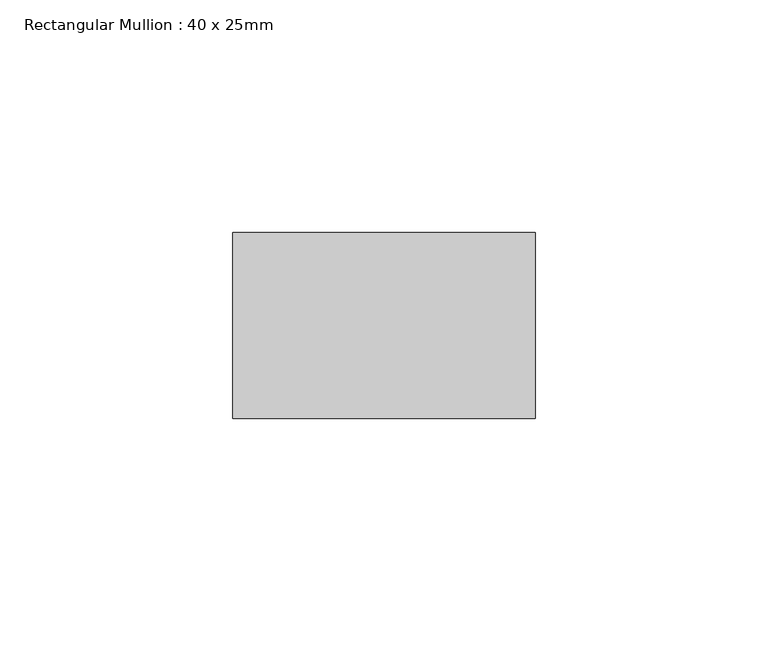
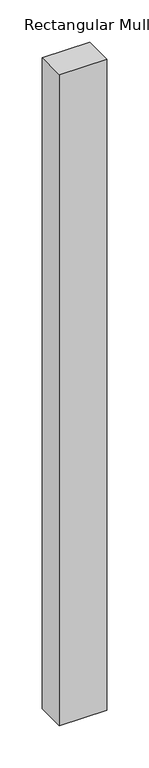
"""IFC4 building model written with IfcOpenShell, lengths in millimetres: member geometry, Rectangular Mullion : 40 x 25mm."""

from ifc_helpers import new_model, si_unit, frame, origin, place, context, project, spatial, polyline, outline, extrude, source, transform, mapped, element, save


def rectangular_mullion_40_x_25mm_e3196e9a(model_context):
    return source(origin(), model_context, "Body", "SweptSolid", [
        extrude(outline(polyline([(0.0, -20.0), (0.0, -60.0), (-65.0, -60.0), (-65.0, -20.0), (0.0, -20.0)])), frame((0.0, 0.0, -940.9), z_axis=(0.0, 0.0, 1.0), x_axis=(1.0, 0.0, 0.0)), (0.0, 0.0, 1.0), 940.9),
    ])


if __name__ == "__main__":
    model = new_model("IFC4")
    model_context = context("Model", 3, world=origin())
    ifc_project = project(units=[si_unit("LENGTHUNIT", "METRE", prefix="MILLI")], contexts=[model_context])
    site = spatial("IfcSite", under=ifc_project)
    building = spatial("IfcBuilding", under=site)
    placement = place(None, origin())
    rectangular_mullion_40_x_25mm_shape = rectangular_mullion_40_x_25mm_e3196e9a(model_context)
    element("IfcMember", 1, ObjectType="Rectangular Mullion : 40 x 25mm", at=placement, inside=building, context=model_context, shape_type="MappedRepresentation", body=[
        mapped(rectangular_mullion_40_x_25mm_shape, transform((0.0, 0.0, 0.0), x_axis=(1.0, 0.0, 0.0), y_axis=(0.0, 1.0, 0.0), z_axis=(0.0, 0.0, 1.0))),
    ])
    save(model, "model.ifc")
